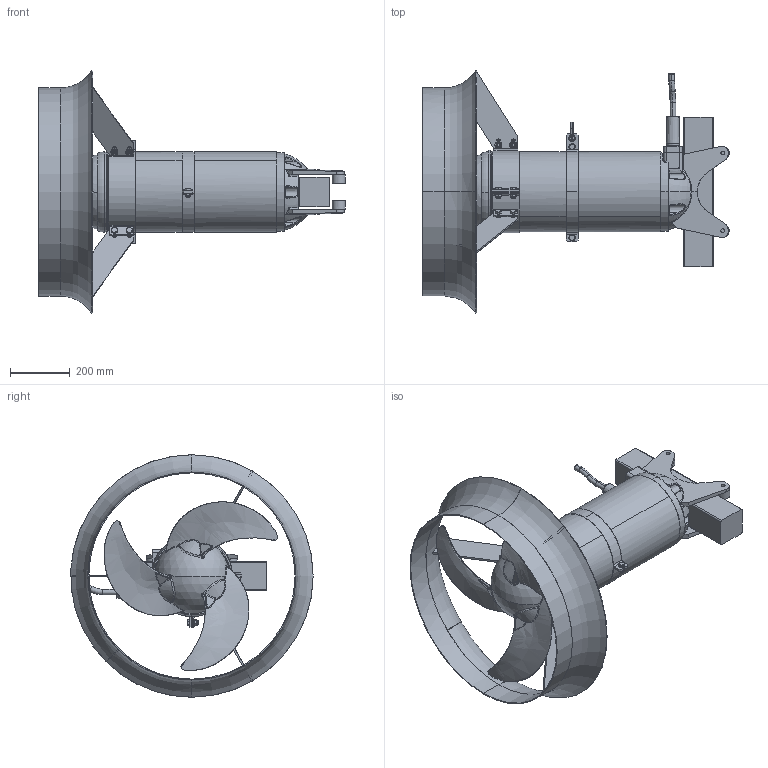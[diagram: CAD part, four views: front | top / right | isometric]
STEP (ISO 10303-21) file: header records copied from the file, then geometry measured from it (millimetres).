
FILE_DESCRIPTION (( 'STEP AP214' ), '1' );
FILE_NAME ('RW650 Vkt.100 with flowring_MSD.STEP', '2017-04-03T06:36:28', ( '' ), ( '' ), 'SwSTEP 2.0', 'SolidWorks 2017', '' );
FILE_SCHEMA (( 'AUTOMOTIVE_DESIGN' ));
Length unit declared in the file: millimetre
Products named in the file (1): RW650 Vkt.100 with flowring_MSD
Bounding box: 1025 x 810.33 x 811 mm (x, y, z)
Volume: 1134257.9 mm3; surface area: 2737059.9 mm2
Topology: 10 solids, 11 shells, 1295 faces, 3175 edges, 1967 vertices
Faces by surface type: plane 457, cylinder 317, cone 236, bspline 192, torus 83, sphere 10
Entity records: 195292 total; most frequent: CARTESIAN_POINT 152201, ORIENTED_EDGE 6284, DIRECTION 5623, EDGE_CURVE 3142, AXIS2_PLACEMENT_3D 2303, VERTEX_POINT 1959, EDGE_LOOP 1441, UNCERTAINTY_MEASURE_WITH_UNIT 1299
